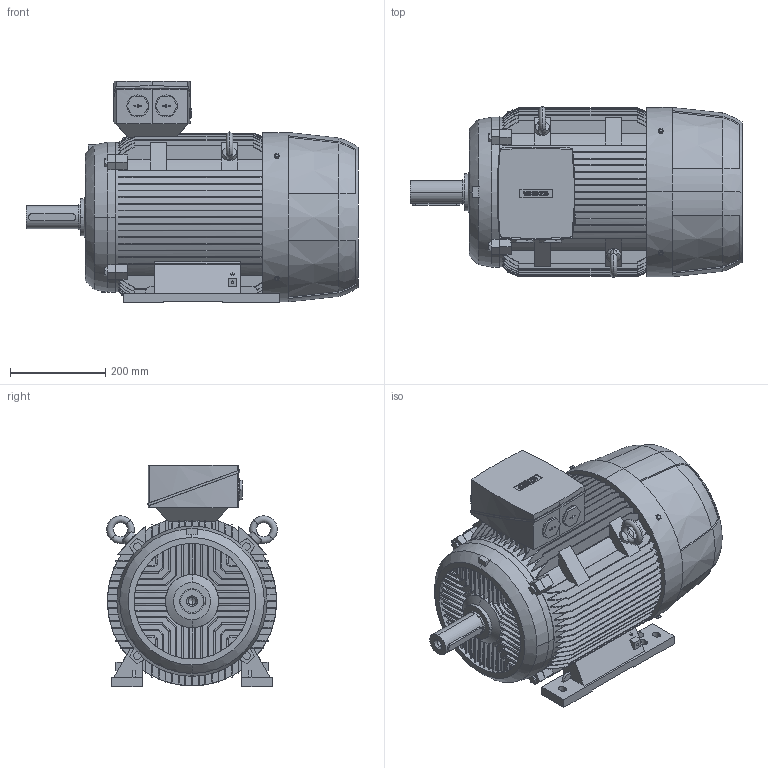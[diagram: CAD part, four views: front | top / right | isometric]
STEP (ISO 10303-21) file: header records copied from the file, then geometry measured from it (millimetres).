
FILE_DESCRIPTION(('STEP AP214'),'1');
FILE_NAME('cctmp_7F8FFD71-CC80-453A-88E6-A2CDD154583D_2020_7_1_13_9_0_903..stp','2020-07-01T11:09:02',('SIEMENS A&D'),('CADClick - www.CADClick.com'),'Spatial InterOp 3D',' ','unknown authorization');
FILE_SCHEMA(('AUTOMOTIVE_DESIGN'));
Length unit declared in the file: millimetre
Products named in the file (1): 2020_07_01__13-09-00-856
Bounding box: 698 x 358.44 x 466 mm (x, y, z)
Volume: 52408561 mm3; surface area: 1876826 mm2
Topology: 1 solids, 1 shells, 1398 faces, 3967 edges, 2620 vertices
Faces by surface type: plane 872, cylinder 306, torus 184, cone 36
Entity records: 65485 total; most frequent: CARTESIAN_POINT 18330, ORIENTED_EDGE 7930, DIRECTION 7148, EDGE_CURVE 3965, VERTEX_POINT 2620, AXIS2_PLACEMENT_3D 2491, LINE 2166, VECTOR 2166
